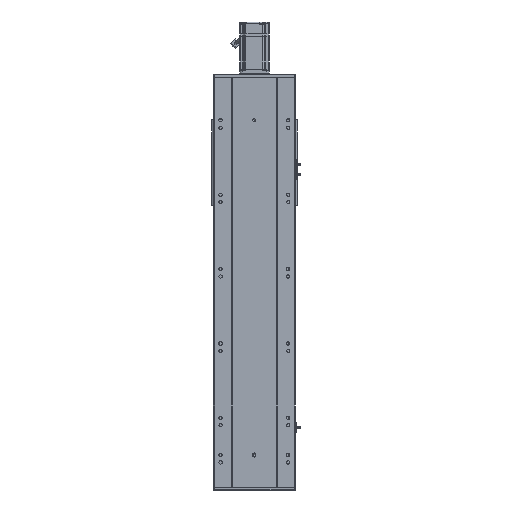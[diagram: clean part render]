
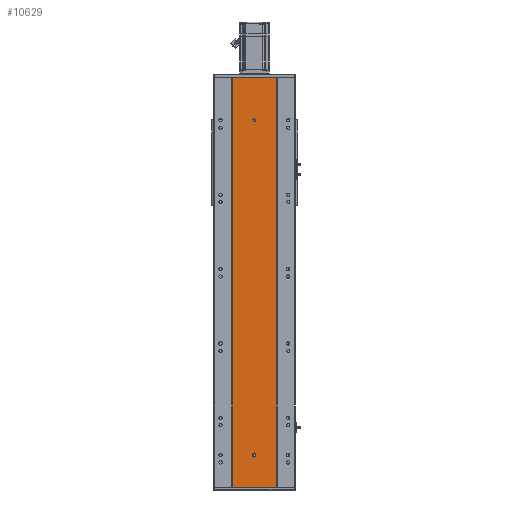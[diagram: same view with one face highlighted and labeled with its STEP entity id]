
A CAD part, front view. The second image highlights one B-rep face of the part: STEP entity #10629.
In plain terms, the highlighted planar face has unit normal (0, -1, 0).
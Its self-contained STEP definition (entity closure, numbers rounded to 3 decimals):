
#46 = EDGE_CURVE ( 'NONE', #29662, #48049, #41217, .T. ) ;
#499 = CARTESIAN_POINT ( 'NONE',  ( -4., 0., 87.5 ) ) ;
#1711 = CARTESIAN_POINT ( 'NONE',  ( -60., 0., 1100. ) ) ;
#1900 = ORIENTED_EDGE ( 'NONE', *, *, #54757, .F. ) ;
#3228 = CARTESIAN_POINT ( 'NONE',  ( -60., 0., 1100. ) ) ;
#3460 = DIRECTION ( 'NONE',  ( 0., 0., 1. ) ) ;
#3733 = AXIS2_PLACEMENT_3D ( 'NONE', #14934, #69579, #9216 ) ;
#3965 = DIRECTION ( 'NONE',  ( 0., -1., 0. ) ) ;
#4424 = VECTOR ( 'NONE', #8795, 1000. ) ;
#5240 = VERTEX_POINT ( 'NONE', #36228 ) ;
#5595 = LINE ( 'NONE', #59998, #52755 ) ;
#7100 = EDGE_CURVE ( 'NONE', #19999, #52749, #61327, .T. ) ;
#7241 = FACE_OUTER_BOUND ( 'NONE', #37883, .T. ) ;
#8795 = DIRECTION ( 'NONE',  ( 0., 0., -1. ) ) ;
#9216 = DIRECTION ( 'NONE',  ( 0., 0., -1. ) ) ;
#9829 = ORIENTED_EDGE ( 'NONE', *, *, #51943, .T. ) ;
#10629 = ADVANCED_FACE ( 'NONE', ( #14113, #44905, #7241 ), #69121, .F. ) ;
#12015 = VERTEX_POINT ( 'NONE', #14738 ) ;
#12190 = AXIS2_PLACEMENT_3D ( 'NONE', #3228, #36263, #3460 ) ;
#12446 = LINE ( 'NONE', #34155, #53496 ) ;
#13867 = DIRECTION ( 'NONE',  ( 0., 0., -1. ) ) ;
#14113 = FACE_BOUND ( 'NONE', #32618, .T. ) ;
#14738 = CARTESIAN_POINT ( 'NONE',  ( 0., 0., 990. ) ) ;
#14934 = CARTESIAN_POINT ( 'NONE',  ( 0., 0., 986. ) ) ;
#15712 = CARTESIAN_POINT ( 'NONE',  ( 60., 0., 1100. ) ) ;
#15956 = VERTEX_POINT ( 'NONE', #67552 ) ;
#17406 = EDGE_CURVE ( 'NONE', #5240, #29662, #37250, .T. ) ;
#18079 = VERTEX_POINT ( 'NONE', #1711 ) ;
#18303 = CARTESIAN_POINT ( 'NONE',  ( 0., 0., 84.5 ) ) ;
#18408 = ORIENTED_EDGE ( 'NONE', *, *, #38971, .F. ) ;
#18633 = ORIENTED_EDGE ( 'NONE', *, *, #64072, .T. ) ;
#19780 = AXIS2_PLACEMENT_3D ( 'NONE', #60019, #32231, #27679 ) ;
#19999 = VERTEX_POINT ( 'NONE', #39535 ) ;
#24027 = CIRCLE ( 'NONE', #49990, 4. ) ;
#27679 = DIRECTION ( 'NONE',  ( 0., 0., -1. ) ) ;
#28652 = DIRECTION ( 'NONE',  ( 0., 0., -1. ) ) ;
#29079 = VERTEX_POINT ( 'NONE', #15712 ) ;
#29662 = VERTEX_POINT ( 'NONE', #499 ) ;
#30399 = CARTESIAN_POINT ( 'NONE',  ( -4., 0., 84.5 ) ) ;
#30629 = LINE ( 'NONE', #33733, #70027 ) ;
#32231 = DIRECTION ( 'NONE',  ( 0., -1., 0. ) ) ;
#32509 = ORIENTED_EDGE ( 'NONE', *, *, #17406, .F. ) ;
#32618 = EDGE_LOOP ( 'NONE', ( #18408, #1900 ) ) ;
#33154 = ORIENTED_EDGE ( 'NONE', *, *, #7100, .F. ) ;
#33733 = CARTESIAN_POINT ( 'NONE',  ( -60., 0., 0. ) ) ;
#34155 = CARTESIAN_POINT ( 'NONE',  ( -60., 0., 1100. ) ) ;
#35078 = DIRECTION ( 'NONE',  ( 0., 0., -1. ) ) ;
#36228 = CARTESIAN_POINT ( 'NONE',  ( 4., 0., 87.5 ) ) ;
#36263 = DIRECTION ( 'NONE',  ( 0., 1., 0. ) ) ;
#36755 = VERTEX_POINT ( 'NONE', #68211 ) ;
#37250 = CIRCLE ( 'NONE', #19780, 4. ) ;
#37883 = EDGE_LOOP ( 'NONE', ( #18633, #44743, #58247, #9829 ) ) ;
#38282 = CARTESIAN_POINT ( 'NONE',  ( 4., 0., 84.5 ) ) ;
#38768 = AXIS2_PLACEMENT_3D ( 'NONE', #18303, #46525, #35078 ) ;
#38971 = EDGE_CURVE ( 'NONE', #15956, #12015, #63546, .T. ) ;
#39535 = CARTESIAN_POINT ( 'NONE',  ( 0., 0., 80.5 ) ) ;
#41217 = LINE ( 'NONE', #56253, #67012 ) ;
#42138 = LINE ( 'NONE', #57660, #4424 ) ;
#42244 = DIRECTION ( 'NONE',  ( 0., 0., -1. ) ) ;
#42374 = DIRECTION ( 'NONE',  ( 1., 0., 0. ) ) ;
#44743 = ORIENTED_EDGE ( 'NONE', *, *, #53446, .F. ) ;
#44905 = FACE_BOUND ( 'NONE', #66934, .T. ) ;
#45049 = ORIENTED_EDGE ( 'NONE', *, *, #46, .F. ) ;
#46525 = DIRECTION ( 'NONE',  ( 0., -1., 0. ) ) ;
#48049 = VERTEX_POINT ( 'NONE', #30399 ) ;
#49800 = CARTESIAN_POINT ( 'NONE',  ( -60., 0., 0. ) ) ;
#49990 = AXIS2_PLACEMENT_3D ( 'NONE', #62980, #68043, #13867 ) ;
#50710 = LINE ( 'NONE', #69056, #70462 ) ;
#51943 = EDGE_CURVE ( 'NONE', #18079, #70901, #12446, .T. ) ;
#52749 = VERTEX_POINT ( 'NONE', #38282 ) ;
#52755 = VECTOR ( 'NONE', #61452, 1000. ) ;
#53446 = EDGE_CURVE ( 'NONE', #29079, #36755, #42138, .T. ) ;
#53496 = VECTOR ( 'NONE', #28652, 1000. ) ;
#54757 = EDGE_CURVE ( 'NONE', #12015, #15956, #24027, .T. ) ;
#56253 = CARTESIAN_POINT ( 'NONE',  ( -4., 0., 84.5 ) ) ;
#57660 = CARTESIAN_POINT ( 'NONE',  ( 60., 0., 1100. ) ) ;
#58016 = EDGE_CURVE ( 'NONE', #52749, #5240, #5595, .T. ) ;
#58079 = EDGE_CURVE ( 'NONE', #48049, #19999, #65643, .T. ) ;
#58247 = ORIENTED_EDGE ( 'NONE', *, *, #61806, .F. ) ;
#59974 = ORIENTED_EDGE ( 'NONE', *, *, #58016, .F. ) ;
#59998 = CARTESIAN_POINT ( 'NONE',  ( 4., 0., 84.5 ) ) ;
#60019 = CARTESIAN_POINT ( 'NONE',  ( 0., 0., 87.5 ) ) ;
#61288 = DIRECTION ( 'NONE',  ( 1., 0., 0. ) ) ;
#61327 = CIRCLE ( 'NONE', #71038, 4. ) ;
#61452 = DIRECTION ( 'NONE',  ( 0., 0., 1. ) ) ;
#61806 = EDGE_CURVE ( 'NONE', #18079, #29079, #50710, .T. ) ;
#62269 = DIRECTION ( 'NONE',  ( 0., 0., -1. ) ) ;
#62980 = CARTESIAN_POINT ( 'NONE',  ( 0., 0., 986. ) ) ;
#63546 = CIRCLE ( 'NONE', #3733, 4. ) ;
#64072 = EDGE_CURVE ( 'NONE', #70901, #36755, #30629, .T. ) ;
#64351 = CARTESIAN_POINT ( 'NONE',  ( 0., 0., 84.5 ) ) ;
#65643 = CIRCLE ( 'NONE', #38768, 4. ) ;
#66934 = EDGE_LOOP ( 'NONE', ( #59974, #33154, #71115, #45049, #32509 ) ) ;
#67012 = VECTOR ( 'NONE', #62269, 1000. ) ;
#67552 = CARTESIAN_POINT ( 'NONE',  ( 0., 0., 982. ) ) ;
#68043 = DIRECTION ( 'NONE',  ( 0., -1., 0. ) ) ;
#68211 = CARTESIAN_POINT ( 'NONE',  ( 60., 0., 0. ) ) ;
#69056 = CARTESIAN_POINT ( 'NONE',  ( -60., 0., 1100. ) ) ;
#69121 = PLANE ( 'NONE',  #12190 ) ;
#69579 = DIRECTION ( 'NONE',  ( 0., -1., 0. ) ) ;
#70027 = VECTOR ( 'NONE', #61288, 1000. ) ;
#70462 = VECTOR ( 'NONE', #42374, 1000. ) ;
#70901 = VERTEX_POINT ( 'NONE', #49800 ) ;
#71038 = AXIS2_PLACEMENT_3D ( 'NONE', #64351, #3965, #42244 ) ;
#71115 = ORIENTED_EDGE ( 'NONE', *, *, #58079, .F. ) ;
